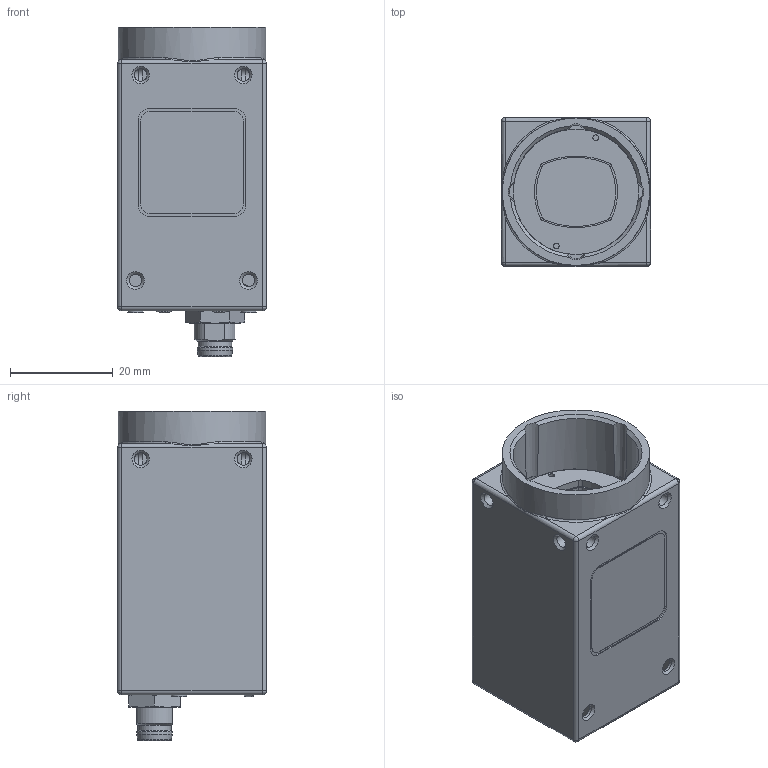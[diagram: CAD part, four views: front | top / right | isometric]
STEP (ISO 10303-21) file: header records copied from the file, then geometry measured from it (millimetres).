
FILE_DESCRIPTION( ( 'Unknown' ), '1' );
FILE_NAME( 'C:/Users/rih/Desktop/CAD-MarCom/11165944_VCXG-24M.stp', '14.10.2014', ( 'Unknown' ), ( 'Unknown' ), 'PSStep 15.0.49', 'Unknown', ' ' );
FILE_SCHEMA( ( 'AUTOMOTIVE_DESIGN { 1 0 10303 214 1 1 1 1 }' ) );
Length unit declared in the file: millimetre
Products named in the file (5): 11080147
Bounding box: 29 x 29 x 64.05 mm (x, y, z)
Volume: 13291.3 mm3; surface area: 22985.1 mm2
Topology: 5 solids, 9 shells, 2233 faces, 6001 edges, 3892 vertices
Faces by surface type: plane 1287, cylinder 729, cone 72, torus 53, sphere 48, bspline 36, extrusion 8
Full cylindrical faces by diameter (mm): 0.217 x1, 0.6 x16, 0.9 x117, 1.1 x2, 1.4 x4, 1.567 x2, 1.6 x2, 1.9 x4, 2.459 x10, 3 x4, 6.5 x1, 6.9 x1, 8.4 x1, 9 x1, 9.4 x1, 24.4 x1, 26 x1, 28.7 x1
Entity records: 88556 total; most frequent: CARTESIAN_POINT 16296, DIRECTION 11183, ORIENTED_EDGE 11122, EDGE_CURVE 5561, AXIS2_PLACEMENT_3D 3842, VERTEX_POINT 3704, VECTOR 3499, LINE 3491
